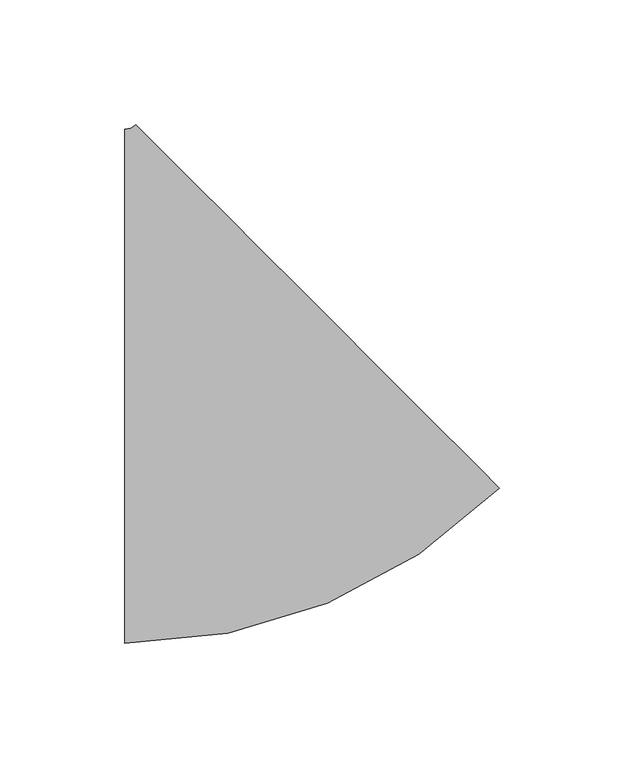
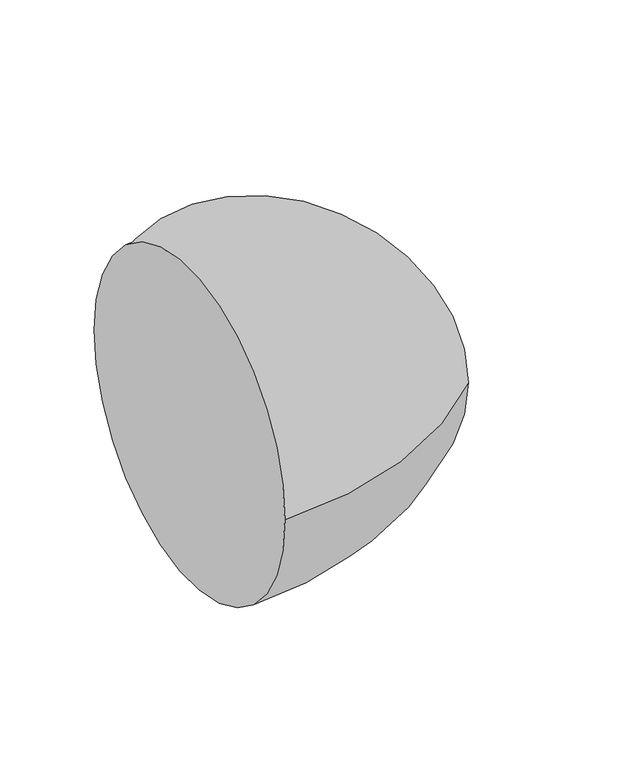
"""IFC4 building model written with IfcOpenShell, lengths in millimetres: pipe fitting geometry, M_Codo - Genérico : Estándar."""

import ifcopenshell
import ifcopenshell.guid

model = None  # the IFC model being written
_history = None  # IfcOwnerHistory: only IFC2X3 demands one
_inside = {}  # id of a spatial element -> (the spatial element, [elements in it])
_under = {}  # id of a project, library or spatial element -> (it, [spatial elements below it])
_declared = {}  # id of a project -> (the project, [libraries it declares])
_typed = {}  # id of a type object -> (the type object, [elements of that type])
_made_of = {}  # id of a material, layer set ... -> (it, [elements and type objects made of it])


def new_model(schema):
    """Start an empty IFC model of exactly this schema.

    Asked for "IFC4X3", IfcOpenShell would pick the latest addendum, in which some entities
    have other attributes; the version numbers below select the first issue.
    IFC2X3 requires an IfcOwnerHistory on every rooted entity: one is made here for all.
    """
    global model, _history
    if schema == "IFC4X3":
        model = ifcopenshell.file(schema_version=(4, 3, 0, 0))
    else:
        model = ifcopenshell.file(schema=schema)
    _inside.clear()
    _under.clear()
    _declared.clear()
    _typed.clear()
    _made_of.clear()
    _history = None
    if model.schema == "IFC2X3":
        org = make("IfcOrganization", Name="unknown")
        user = make(
            "IfcPersonAndOrganization",
            ThePerson=make("IfcPerson", FamilyName="unknown"),
            TheOrganization=org,
        )
        app = make(
            "IfcApplication",
            ApplicationDeveloper=org,
            Version="unknown",
            ApplicationFullName="unknown",
            ApplicationIdentifier="unknown",
        )
        _history = make(
            "IfcOwnerHistory",
            OwningUser=user,
            OwningApplication=app,
            ChangeAction="ADDED",
            CreationDate=0,
        )
    return model


def make(cls, **values):
    """One entity of the class cls with the attributes given. An attribute that is None is left unset."""
    return model.create_entity(
        cls, **{name: value for name, value in values.items() if value is not None}
    )


def rooted(cls, **values):
    """An entity with a GlobalId (a new one), such as an element, a storey or a relation."""
    return make(cls, GlobalId=ifcopenshell.guid.new(), OwnerHistory=_history, **values)


def si_unit(unit_type, name, prefix=None):
    """IfcSIUnit, for example si_unit("LENGTHUNIT", "METRE", prefix="MILLI")."""
    return make("IfcSIUnit", UnitType=unit_type, Prefix=prefix, Name=name)


def assignment(units):
    """IfcUnitAssignment: the units of a project."""
    return None if units is None else make("IfcUnitAssignment", Units=units)


def point(xyz):
    """IfcCartesianPoint."""
    return None if xyz is None else make("IfcCartesianPoint", Coordinates=xyz)


def direction(xyz):
    """IfcDirection."""
    return None if xyz is None else make("IfcDirection", DirectionRatios=xyz)


def frame(location, z_axis=None, x_axis=None):
    """IfcAxis2Placement3D, a coordinate frame: its origin and axes. An axis left out is left unset."""
    return make(
        "IfcAxis2Placement3D",
        Location=point(location),
        Axis=direction(z_axis),
        RefDirection=direction(x_axis),
    )


def origin():
    """The frame at (0, 0, 0) with its axes left unset."""
    return frame((0.0, 0.0, 0.0))


def place(relative_to, where):
    """IfcLocalPlacement: puts the frame where relative to a parent placement (None: the world)."""
    return make(
        "IfcLocalPlacement", PlacementRelTo=relative_to, RelativePlacement=where
    )


def context(
    kind, dimensions, precision=None, world=None, true_north=None, identifier=None
):
    """IfcGeometricRepresentationContext, for example the 3D "Model" context."""
    return make(
        "IfcGeometricRepresentationContext",
        ContextIdentifier=identifier,
        ContextType=kind,
        CoordinateSpaceDimension=dimensions,
        Precision=precision,
        WorldCoordinateSystem=world,
        TrueNorth=true_north,
    )


def project(units=None, contexts=None):
    """IfcProject with its units and contexts."""
    return rooted(
        "IfcProject",
        Name="project",
        RepresentationContexts=contexts,
        UnitsInContext=assignment(units),
    )


def spatial(cls, under=None, at=None, **own):
    """A site, building, storey or space (cls), placed at a placement, below another one or the project."""
    s = rooted(cls, ObjectPlacement=at, **own)
    if under is not None:
        _under.setdefault(under.id(), (under, []))[1].append(s)
    return s


def circle_curve(where, radius):
    """IfcCircle in the frame where."""
    return make("IfcCircle", Position=where, Radius=radius)


def ellipse_curve(where, semi_axis1, semi_axis2):
    """IfcEllipse in the frame where."""
    return make(
        "IfcEllipse", Position=where, SemiAxis1=semi_axis1, SemiAxis2=semi_axis2
    )


def trimmed(basis, trim1, trim2, sense, master):
    """IfcTrimmedCurve: the piece of a basis curve between two trims."""
    return make(
        "IfcTrimmedCurve",
        BasisCurve=basis,
        Trim1=trim1,
        Trim2=trim2,
        SenseAgreement=sense,
        MasterRepresentation=master,
    )


def shape(context_of_items, identifier, shape_type, items):
    """IfcShapeRepresentation: the items that make up one representation, for example the "Body"."""
    return make(
        "IfcShapeRepresentation",
        ContextOfItems=context_of_items,
        RepresentationIdentifier=identifier,
        RepresentationType=shape_type,
        Items=items,
    )


def source(mapping_origin, context_of_items, identifier, shape_type, items):
    """IfcRepresentationMap: a shape defined once, which mapped items show again and again."""
    return make(
        "IfcRepresentationMap",
        MappingOrigin=mapping_origin,
        MappedRepresentation=shape(context_of_items, identifier, shape_type, items),
    )


def transform(
    local_origin,
    x_axis=None,
    y_axis=None,
    z_axis=None,
    scale=None,
    scale2=None,
    scale3=None,
    uniform=True,
):
    """IfcCartesianTransformationOperator3D, or its non-uniform kind. x_axis, y_axis, z_axis: its Axis1, 2, 3."""
    if uniform:
        return make(
            "IfcCartesianTransformationOperator3D",
            Axis1=direction(x_axis),
            Axis2=direction(y_axis),
            LocalOrigin=point(local_origin),
            Scale=scale,
            Axis3=direction(z_axis),
        )
    return make(
        "IfcCartesianTransformationOperator3DnonUniform",
        Axis1=direction(x_axis),
        Axis2=direction(y_axis),
        LocalOrigin=point(local_origin),
        Scale=scale,
        Axis3=direction(z_axis),
        Scale2=scale2,
        Scale3=scale3,
    )


def mapped(mapping_source, mapping_target):
    """IfcMappedItem: shows the shape of a source again, moved by a transform."""
    return make(
        "IfcMappedItem", MappingSource=mapping_source, MappingTarget=mapping_target
    )


def made_of(thing, what):
    """Note that an element or type object is made of a material, layer set ...; save() writes the relation."""
    if what is not None:
        _made_of.setdefault(what.id(), (what, []))[1].append(thing)
    return thing


def element(
    cls,
    number,
    at=None,
    inside=None,
    cuts=None,
    type_object=None,
    material=None,
    context=None,
    identifier="Body",
    shape_type=None,
    held_by="IfcProductDefinitionShape",
    body=None,
    shapes=None,
    **own,
):
    """One element of the class cls, such as IfcWall. Its Tag is "e" and its number.

    at: its placement. inside: the storey or other place that contains it. cuts: it is an
    opening in that element (IfcRelVoidsElement). A single representation is given by context,
    identifier, shape_type and body (its items); several are given by shapes. held_by: the class
    of the entity that holds the representations. save() writes the other relations.
    """
    e = rooted(cls, Tag="e%d" % number, ObjectPlacement=at, **own)
    if body is not None:
        shapes = [shape(context, identifier, shape_type, body)]
    if shapes is not None:
        e.Representation = make(held_by, Representations=shapes)
    if inside is not None:
        _inside.setdefault(inside.id(), (inside, []))[1].append(e)
    if cuts is not None:
        rooted(
            "IfcRelVoidsElement", RelatingBuildingElement=cuts, RelatedOpeningElement=e
        )
    if type_object is not None:
        _typed.setdefault(type_object.id(), (type_object, []))[1].append(e)
    return made_of(e, material)


def aggregate(whole, parts):
    """IfcRelAggregates: a whole, such as a stair, and the parts it consists of."""
    return rooted("IfcRelAggregates", RelatingObject=whole, RelatedObjects=parts)


def save(model, path):
    """Write the relations noted so far, then the file.

    IfcRelAggregates (storeys below a building ...), IfcRelContainedInSpatialStructure (elements
    in a storey), IfcRelDefinesByType, IfcRelAssociatesMaterial and IfcRelDeclares: one each for
    every whole, place, type object, material and project.
    """
    for whole, parts in _under.values():
        aggregate(whole, parts)
    for where, things in _inside.values():
        rooted(
            "IfcRelContainedInSpatialStructure",
            RelatedElements=things,
            RelatingStructure=where,
        )
    for kind, things in _typed.values():
        rooted("IfcRelDefinesByType", RelatedObjects=things, RelatingType=kind)
    for what, things in _made_of.values():
        rooted("IfcRelAssociatesMaterial", RelatedObjects=things, RelatingMaterial=what)
    for by, libraries in _declared.values():
        rooted("IfcRelDeclares", RelatingContext=by, RelatedDefinitions=libraries)
    model.write(path)


def plane_surface(at):
    """IfcPlane: the flat surface through the origin of the frame at, square to its z axis."""
    return make("IfcPlane", Position=at)


def revolved_surface(curve, axis_point, axis_direction):
    """IfcSurfaceOfRevolution: the curve turned about the line through axis_point along axis_direction."""
    return make(
        "IfcSurfaceOfRevolution",
        SweptCurve=make("IfcArbitraryOpenProfileDef", ProfileType="CURVE", Curve=curve),
        AxisPosition=make("IfcAxis1Placement", Location=point(axis_point), Axis=direction(axis_direction)),
    )


def advanced_brep(points, edges, surfaces, faces):
    """IfcAdvancedBrep: a solid bounded by faces that lie on surfaces and meet in shared edges.

    An edge is (start, end): straight between two places in points (the first is 0);
    or (start, end, curve); or (start, end, curve, False) where it runs against its curve.
    A face is (place in surfaces, loops), or (place, loops, False) where it looks against
    its surface's normal. A loop lists edges by number (the first is 1), with a minus sign
    where the edge is run from its end to its start. The first loop is the outer one.
    """
    corners = [point(p) for p in points]
    vertices = [make("IfcVertexPoint", VertexGeometry=c) for c in corners]
    made = []
    for start, end, *more in edges:
        made.append(
            make(
                "IfcEdgeCurve",
                EdgeStart=vertices[start],
                EdgeEnd=vertices[end],
                EdgeGeometry=more[0] if more else make("IfcPolyline", Points=[corners[start], corners[end]]),
                SameSense=more[1] if len(more) > 1 else True,
            )
        )
    hull = []
    for where, loops, *sense in faces:
        bounds = []
        for j, loop in enumerate(loops):
            ring = [make("IfcOrientedEdge", EdgeElement=made[abs(k) - 1], Orientation=k > 0) for k in loop]
            bounds.append(
                make(
                    "IfcFaceOuterBound" if j == 0 else "IfcFaceBound",
                    Bound=make("IfcEdgeLoop", EdgeList=ring),
                    Orientation=True,
                )
            )
        hull.append(make("IfcAdvancedFace", Bounds=bounds, FaceSurface=surfaces[where], SameSense=sense[0] if sense else True))
    return make("IfcAdvancedBrep", Outer=make("IfcClosedShell", CfsFaces=hull))


def pipe_fitting_f9e0fcb5(model_context):
    return source(origin(), model_context, "Body", "AdvancedBrep", [
        advanced_brep(
        [(-45.3693645, -103.1875, 0.0), (-45.3693645, 103.1875, 0.0), (105.0439392, -40.8877761, 0.0), (-40.8794152, 105.0471933, 0.0)],
        [
            (0, 1, circle_curve(frame((-45.3693645, 0.0, 0.0), z_axis=(-1.0, 0.0, 0.0), x_axis=(0.0, 1.0, 0.0)), 103.1875)),
            (1, 0, circle_curve(frame((-45.3693645, 0.0, 0.0), z_axis=(-1.0, 0.0, 0.0), x_axis=(0.0, 1.0, 0.0)), 103.1875)),
            (2, 3, circle_curve(frame((32.082262, 32.0797086, 0.0), z_axis=(0.7071349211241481, 0.7070786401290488, 0.0), x_axis=(-0.7070786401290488, 0.7071349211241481, 0.0)), 103.1875)),
            (3, 2, circle_curve(frame((32.082262, 32.0797086, 0.0), z_axis=(0.7071349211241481, 0.7070786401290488, 0.0), x_axis=(-0.7070786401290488, 0.7071349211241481, 0.0)), 103.1875)),
            (3, 1, circle_curve(frame((-45.3693645, 109.5375, 0.0), z_axis=(0.0, 0.0, -1.0), x_axis=(0.0, -1.0, 0.0)), 6.35)),
            (0, 2, circle_curve(frame((-45.3693645, 109.5375, 0.0), z_axis=(0.0, 0.0, 1.0), x_axis=(0.0, -1.0, 0.0)), 212.725)),
        ],
        [
            plane_surface(frame((-45.3693645, 0.0, 0.0), z_axis=(-1.0, 0.0, 0.0), x_axis=(0.0, 0.0, 1.0))),
            plane_surface(frame((32.082262, 32.0797086, 0.0), z_axis=(0.7071349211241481, 0.707078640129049, 0.0), x_axis=(0.0, 0.0, 1.0))),
            revolved_surface(trimmed(ellipse_curve(frame((-45.3693645, 0.0, 0.0), z_axis=(-1.0, 0.0, 0.0), x_axis=(0.0, 1.0, 0.0)), 103.1875, 103.1875), [point((-45.3693645, -103.1875, 0.0))], [point((-45.3693645, 103.1875, 0.0))], True, "CARTESIAN"), (-45.3693645, 109.5375, 0.0), (0.0, 0.0, 1.0)),
            revolved_surface(trimmed(ellipse_curve(frame((-45.3693645, 0.0, 0.0), z_axis=(-1.0, 0.0, 0.0), x_axis=(0.0, 1.0, 0.0)), 103.1875, 103.1875), [point((-45.3693645, 103.1875, 0.0))], [point((-45.3693645, -103.1875, 0.0))], True, "CARTESIAN"), (-45.3693645, 109.5375, 0.0), (0.0, 0.0, 1.0)),
        ],
        [
            (0, [[1, 2]]),
            (1, [[3, 4]]),
            (2, [[5, -1, 6, -4]]),
            (3, [[-6, -2, -5, -3]]),
        ],
    ),
    ])


if __name__ == "__main__":
    model = new_model("IFC4")
    model_context = context("Model", 3, world=origin())
    ifc_project = project(units=[si_unit("LENGTHUNIT", "METRE", prefix="MILLI")], contexts=[model_context])
    site = spatial("IfcSite", under=ifc_project)
    building = spatial("IfcBuilding", under=site)
    placement = place(None, origin())
    pipe_fitting_shape = pipe_fitting_f9e0fcb5(model_context)
    element("IfcPipeFitting", 1, ObjectType="M_Codo - Genérico : Estándar", at=placement, inside=building, context=model_context, shape_type="MappedRepresentation", body=[
        mapped(pipe_fitting_shape, transform((0.0, 0.0, 0.0), x_axis=(1.0, 0.0, 0.0), y_axis=(0.0, 1.0, 0.0), z_axis=(0.0, 0.0, 1.0))),
    ])
    save(model, "model.ifc")
